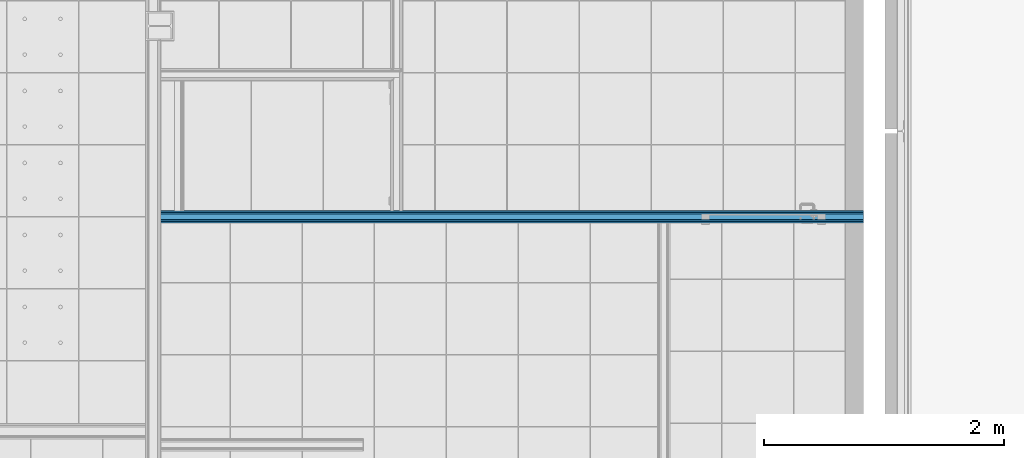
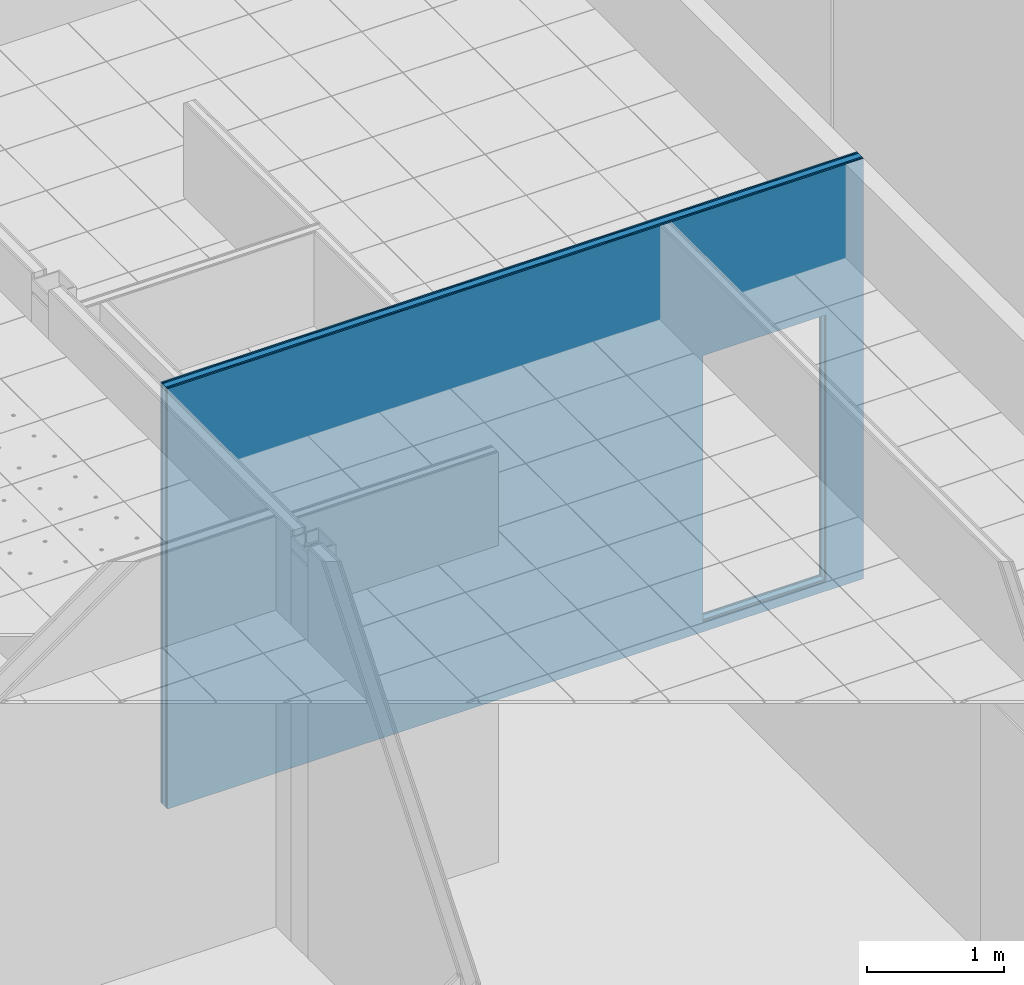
# One storey, part 30 of 338: 5 building element parts, 1 opening, 1 element without a shape of its own.
"""IFC2X3 building model written with IfcOpenShell, lengths in millimetres."""

from ifc_helpers import new_model, entity, si_unit, converted_unit, derived_unit, money_unit, direction, frame, origin_with_axes, place, context, subcontext, project, spatial, faceted_brep, material, type_object, element, aggregate, save


model = new_model("IFC2X3")

# Units and contexts
model_context = context("Model", 3, precision=0.01, world=origin_with_axes(), true_north=direction((0.0, 1.0)))
plan_context = context("Plan", 3, precision=0.01, world=origin_with_axes(), true_north=direction((0.0, 1.0)))
body_context = subcontext(model_context, "Body", "Model", "MODEL_VIEW")
ifc_project = project(units=[si_unit("LENGTHUNIT", "METRE", prefix="MILLI"), si_unit("AREAUNIT", "SQUARE_METRE"), si_unit("VOLUMEUNIT", "CUBIC_METRE"), converted_unit("PLANEANGLEUNIT", "DEGREE", entity("IfcPlaneAngleMeasure", 0.0174532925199), si_unit("PLANEANGLEUNIT", "RADIAN"), dimensions=[0, 0, 0, 0, 0, 0, 0]), money_unit("EUR"), converted_unit("TIMEUNIT", "Year", entity("IfcTimeMeasure", 31556926.0), si_unit("TIMEUNIT", "SECOND"), dimensions=[0, 0, 1, 0, 0, 0, 0]), si_unit("MASSUNIT", "GRAM", prefix="KILO"), si_unit("THERMODYNAMICTEMPERATUREUNIT", "DEGREE_CELSIUS"), si_unit("LUMINOUSINTENSITYUNIT", "LUMEN"), si_unit("ENERGYUNIT", "JOULE", prefix="MEGA"), derived_unit("THERMALCONDUCTANCEUNIT", [(si_unit("POWERUNIT", "WATT"), 1), (si_unit("LENGTHUNIT", "METRE"), -1), (si_unit("THERMODYNAMICTEMPERATUREUNIT", "KELVIN"), -1)]), derived_unit("SPECIFICHEATCAPACITYUNIT", [(si_unit("ENERGYUNIT", "JOULE"), 1), (si_unit("MASSUNIT", "GRAM", prefix="KILO"), -1), (si_unit("THERMODYNAMICTEMPERATUREUNIT", "KELVIN"), -1)]), derived_unit("MASSDENSITYUNIT", [(si_unit("MASSUNIT", "GRAM", prefix="KILO"), 1), (si_unit("VOLUMEUNIT", "CUBIC_METRE"), -1)])], contexts=[model_context, plan_context])

# Site, building, storey
site_placement = place(None, origin_with_axes())
site = spatial("IfcSite", under=ifc_project, at=site_placement, Name="Fortuinstraat Woensdrecht", CompositionType="ELEMENT")
building_placement = place(site_placement, origin_with_axes())
building = spatial("IfcBuilding", under=site, at=building_placement, Name="IKC Fortuna", CompositionType="ELEMENT")
storey_placement = place(building_placement, origin_with_axes())
storey = spatial("IfcBuildingStorey", under=building, at=storey_placement, Name="00 begane grond", CompositionType="ELEMENT", Elevation=0.0)

# Wall, opening, building element parts
wall_type = type_object("IfcWallType", Name="MS100 2.50.2A 100", PredefinedType="NOTDEFINED")
wall_placement = place(storey_placement, frame((28851.9349765, 29932.4813061, -90.0), z_axis=(0.0, 0.0, 1.0), x_axis=(1.0, 0.0, 0.0)))
wall = element("IfcWall", 1, at=wall_placement, inside=storey, type_object=wall_type, Name="22_Wand_Binnenwand")
opening_placement = place(wall_placement, frame((5150.03301187, 0.0, 90.0), z_axis=(0.0, 0.0, 1.0), x_axis=(1.0, 0.0, 0.0)))
element("IfcOpeningElement", 2, at=opening_placement, cuts=wall, Name="32_Deur_h.01a", context=body_context, shape_type="Brep", body=[
    faceted_brep([(-517.0, 200.0, 2367.0), (-517.0, 200.0, 0.0), (-517.0, -100.0, 0.0), (-517.0, -100.0, 2367.0), (517.0, 200.0, 2367.0), (517.0, 200.0, 0.0), (517.0, -100.0, 0.0), (517.0, -100.0, 2367.0)], [[[0, 1, 2, 3]], [[0, 4, 5, 1]], [[1, 5, 6, 2]], [[3, 2, 6, 7]], [[4, 0, 3, 7]], [[5, 4, 7, 6]]]),
])
ifc_material_1 = material(Name="Gipsplaat")
building_element_part_1_placement = place(wall_placement, origin_with_axes())
building_element_part_1 = element("IfcBuildingElementPart", 3, at=building_element_part_1_placement, material=ifc_material_1, Name="Gipsplaat", context=body_context, shape_type="Brep", body=[
    faceted_brep([(5981.49208055, 87.5, 3740.0), (125.0, 87.5, 3740.0), (125.0, 87.5, 0.0), (5981.49208055, 87.5, 0.0), (4633.03301187, 87.5, 90.0), (4633.03301187, 87.5, 2457.0), (5667.03301187, 87.5, 2457.0), (5667.03301187, 87.5, 90.0), (5981.49208055, 100.0, 3740.0), (125.0, 100.0, 3740.0), (125.0, 100.0, 0.0), (5981.49208055, 100.0, 0.0), (4633.03301187, 100.0, 90.0), (4633.03301187, 100.0, 2457.0), (5667.03301187, 100.0, 2457.0), (5667.03301187, 100.0, 90.0)], [[[0, 1, 2, 3], [4, 5, 6, 7]], [[8, 9, 1, 0]], [[9, 10, 2, 1]], [[3, 2, 10, 11]], [[3, 11, 8, 0]], [[12, 13, 5, 4]], [[13, 14, 6, 5]], [[14, 15, 7, 6]], [[15, 12, 4, 7]], [[11, 10, 9, 8], [12, 15, 14, 13]]]),
])
building_element_part_2_placement = place(wall_placement, origin_with_axes())
building_element_part_2 = element("IfcBuildingElementPart", 4, at=building_element_part_2_placement, material=ifc_material_1, Name="Gipsplaat", context=body_context, shape_type="Brep", body=[
    faceted_brep([(5981.49208055, 75.0, 3740.0), (125.0, 75.0, 3740.0), (125.0, 75.0, 0.0), (5981.49208055, 75.0, 0.0), (4633.03301187, 75.0, 90.0), (4633.03301187, 75.0, 2457.0), (5667.03301187, 75.0, 2457.0), (5667.03301187, 75.0, 90.0), (5981.49208055, 87.5, 3740.0), (125.0, 87.5, 3740.0), (125.0, 87.5, 0.0), (5981.49208055, 87.5, 0.0), (4633.03301187, 87.5, 90.0), (4633.03301187, 87.5, 2457.0), (5667.03301187, 87.5, 2457.0), (5667.03301187, 87.5, 90.0)], [[[0, 1, 2, 3], [4, 5, 6, 7]], [[8, 9, 1, 0]], [[9, 10, 2, 1]], [[3, 2, 10, 11]], [[3, 11, 8, 0]], [[12, 13, 5, 4]], [[13, 14, 6, 5]], [[14, 15, 7, 6]], [[15, 12, 4, 7]], [[11, 10, 9, 8], [12, 15, 14, 13]]]),
])
ifc_material_2 = material(Name="Isolatie - Steenwol LSW")
building_element_part_3_placement = place(wall_placement, origin_with_axes())
building_element_part_3 = element("IfcBuildingElementPart", 5, at=building_element_part_3_placement, material=ifc_material_2, Name="Isolatie - Steenwol LSW", context=body_context, shape_type="Brep", body=[
    faceted_brep([(5981.49208055, 25.0, 3740.0), (125.0, 25.0, 3740.0), (125.0, 25.0, 0.0), (5981.49208055, 25.0, 0.0), (4633.03301187, 25.0, 90.0), (4633.03301187, 25.0, 2457.0), (5667.03301187, 25.0, 2457.0), (5667.03301187, 25.0, 90.0), (5981.49208055, 75.0, 3740.0), (125.0, 75.0, 3740.0), (125.0, 75.0, 0.0), (5981.49208055, 75.0, 0.0), (4633.03301187, 75.0, 90.0), (4633.03301187, 75.0, 2457.0), (5667.03301187, 75.0, 2457.0), (5667.03301187, 75.0, 90.0)], [[[0, 1, 2, 3], [4, 5, 6, 7]], [[8, 9, 1, 0]], [[9, 10, 2, 1]], [[3, 2, 10, 11]], [[3, 11, 8, 0]], [[12, 13, 5, 4]], [[13, 14, 6, 5]], [[14, 15, 7, 6]], [[15, 12, 4, 7]], [[11, 10, 9, 8], [12, 15, 14, 13]]]),
])
building_element_part_4_placement = place(wall_placement, origin_with_axes())
building_element_part_4 = element("IfcBuildingElementPart", 6, at=building_element_part_4_placement, material=ifc_material_1, Name="Gipsplaat", context=body_context, shape_type="Brep", body=[
    faceted_brep([(5981.49208055, 12.5, 3740.0), (125.0, 12.5, 3740.0), (125.0, 12.5, 0.0), (5981.49208055, 12.5, 0.0), (4633.03301187, 12.5, 90.0), (4633.03301187, 12.5, 2457.0), (5667.03301187, 12.5, 2457.0), (5667.03301187, 12.5, 90.0), (5981.49208055, 25.0, 3740.0), (125.0, 25.0, 3740.0), (125.0, 25.0, 0.0), (5981.49208055, 25.0, 0.0), (4633.03301187, 25.0, 90.0), (4633.03301187, 25.0, 2457.0), (5667.03301187, 25.0, 2457.0), (5667.03301187, 25.0, 90.0)], [[[0, 1, 2, 3], [4, 5, 6, 7]], [[8, 9, 1, 0]], [[9, 10, 2, 1]], [[3, 2, 10, 11]], [[3, 11, 8, 0]], [[12, 13, 5, 4]], [[13, 14, 6, 5]], [[14, 15, 7, 6]], [[15, 12, 4, 7]], [[11, 10, 9, 8], [12, 15, 14, 13]]]),
])
building_element_part_5_placement = place(wall_placement, origin_with_axes())
building_element_part_5 = element("IfcBuildingElementPart", 7, at=building_element_part_5_placement, material=ifc_material_1, Name="Gipsplaat", context=body_context, shape_type="Brep", body=[
    faceted_brep([(5981.49208055, 0.0, 3740.0), (125.0, 0.0, 3740.0), (125.0, 0.0, 0.0), (5981.49208055, 0.0, 0.0), (4633.03301187, 0.0, 90.0), (4633.03301187, 0.0, 2457.0), (5667.03301187, 0.0, 2457.0), (5667.03301187, 0.0, 90.0), (5981.49208055, 12.5, 3740.0), (125.0, 12.5, 3740.0), (125.0, 12.5, 0.0), (5981.49208055, 12.5, 0.0), (4633.03301187, 12.5, 90.0), (4633.03301187, 12.5, 2457.0), (5667.03301187, 12.5, 2457.0), (5667.03301187, 12.5, 90.0)], [[[0, 1, 2, 3], [4, 5, 6, 7]], [[8, 9, 1, 0]], [[9, 10, 2, 1]], [[3, 2, 10, 11]], [[3, 11, 8, 0]], [[12, 13, 5, 4]], [[13, 14, 6, 5]], [[14, 15, 7, 6]], [[15, 12, 4, 7]], [[11, 10, 9, 8], [12, 15, 14, 13]]]),
])
aggregate(wall, [building_element_part_1, building_element_part_2, building_element_part_3, building_element_part_4, building_element_part_5])

save(model, "model.ifc")
